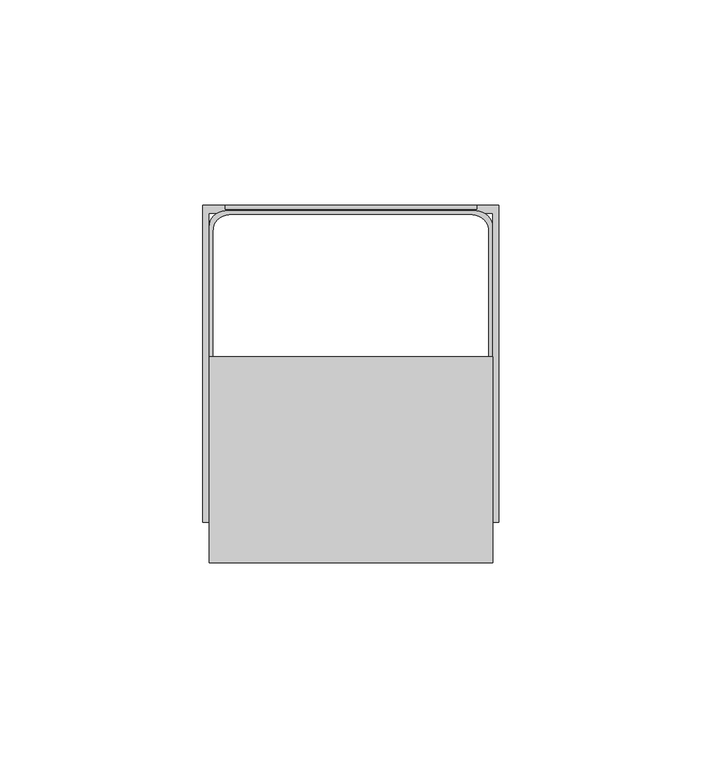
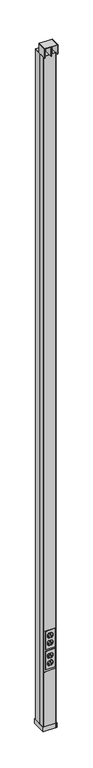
"""IFC4 building model written with IfcOpenShell, lengths in millimetres: proxy geometry, Vertical_Drop_Pole-Wiremold-Tele_Power_Pole-4V : 30TP-412V3S2."""

from ifc_helpers import new_model, si_unit, point, frame, frame_2d, origin, origin_with_axes, place, context, project, spatial, polyline, circle_curve, trimmed, segment, composite_curve, outline, extrude, source, transform, mapped, element, save


def electrical_fixtures_7f5814b6(model_context):
    return source(origin(), model_context, "Body", "SweptSolid", [
        extrude(outline(polyline([(-31.0005859, 79.5967362), (30.9994141, 79.5967362), (30.9994141, 78.5967362), (-31.0005859, 78.5967362), (-31.0005859, 79.5967362)])), frame((0.0, 0.0, 25.4), z_axis=(0.0, 0.0, 1.0), x_axis=(1.0, 0.0, 0.0)), (0.0, 0.0, 1.0), 306.3875),
        extrude(outline(polyline([(30.9994141, 3.0842362), (-31.0005859, 3.0842362), (-31.0005859, 4.0842362), (30.9994141, 4.0842362), (30.9994141, 3.0842362)])), frame((0.0, 0.0, 25.4), z_axis=(0.0, 0.0, 1.0), x_axis=(1.0, 0.0, 0.0)), (0.0, 0.0, 1.0), 306.3875),
        extrude(outline(polyline([(-0.8191406, -9.1282089), (-0.8191406, 41.6717911), (0.9667969, 41.6717911), (0.9667969, -9.1282089), (-0.8191406, -9.1282089)])), frame((0.0, 0.0, 3784.6), z_axis=(0.0, 0.0, 1.0), x_axis=(1.0, 0.0, 0.0)), (0.0, 0.0, 1.0), 50.8),
        extrude(outline(polyline([(-23.8231255, 40.0842911), (23.9707817, 40.0842911), (23.9707817, 38.4967911), (-23.8231255, 38.4967911), (-23.8231255, 40.0842911)])), frame((0.0, 0.0, 3757.6125), z_axis=(0.0, 0.0, 1.0), x_axis=(1.0, 0.0, 0.0)), (0.0, 0.0, 1.0), 26.9875),
        extrude(outline(polyline([(-33.2636719, 41.6717911), (33.4113281, 41.6717911), (33.4113281, 40.0842911), (-33.2636719, 40.0842911), (-33.2636719, 41.6717911)])), frame((0.0, 0.0, 3784.6), z_axis=(0.0, 0.0, 1.0), x_axis=(1.0, 0.0, 0.0)), (0.0, 0.0, 1.0), 50.8),
        extrude(outline(polyline([(-34.8511719, -9.1282089), (-34.8511719, 41.6717911), (-33.2636719, 41.6717911), (-33.2636719, -9.1282089), (-34.8511719, -9.1282089)])), frame((0.0, 0.0, 3784.6), z_axis=(0.0, 0.0, 1.0), x_axis=(1.0, 0.0, 0.0)), (0.0, 0.0, 1.0), 50.8),
        extrude(outline(polyline([(33.4113281, -9.1282089), (33.4113281, 41.6717911), (34.9988281, 41.6717911), (34.9988281, -9.1282089), (33.4113281, -9.1282089)])), frame((0.0, 0.0, 3784.6), z_axis=(0.0, 0.0, 1.0), x_axis=(1.0, 0.0, 0.0)), (0.0, 0.0, 1.0), 50.8),
        extrude(outline(polyline([(-34.8511719, -9.1282089), (-34.8511719, 41.6717911), (34.9988281, 41.6717911), (34.9988281, -9.1282089), (-34.8511719, -9.1282089)])), frame((0.0, 0.0, 3835.4), z_axis=(0.0, 0.0, 1.0), x_axis=(1.0, 0.0, 0.0)), (0.0, 0.0, 1.0), 1.5875),
        extrude(outline(polyline([(560.1033963, 25.4), (560.1033963, -25.4), (458.5033963, -25.4), (458.5033963, 25.4), (560.1033963, 25.4)]), holes=[composite_curve([segment(polyline([(543.1865995, -7.9339585), (543.1865995, 8.0597711)]), True, "CONTINUOUS"), segment(trimmed(circle_curve(frame_2d((531.1153276, 0.9957546)), 13.9862766), [point((543.1865995, 8.0597711))], [point((531.1153276, 14.9820313))], True, "CARTESIAN"), True, "CONTINUOUS"), segment(polyline([(531.1153276, 14.9820313), (529.0278245, 14.9820313)]), True, "CONTINUOUS"), segment(trimmed(circle_curve(frame_2d((529.0278245, 0.9820313)), 14.0), [point((529.0278245, 14.9820313))], [point((517.191287, 8.4584194))], True, "CARTESIAN"), True, "CONTINUOUS"), segment(polyline([(517.191287, 8.4584194), (517.191287, -8.3446349)]), True, "CONTINUOUS"), segment(trimmed(circle_curve(frame_2d((529.1556013, -0.8801276)), 14.1019036), [point((517.191287, -8.3446349))], [point((529.1556013, -14.9820312))], True, "CARTESIAN"), True, "CONTINUOUS"), segment(polyline([(529.1556013, -14.9820312), (531.0731263, -14.9820312)]), True, "CONTINUOUS"), segment(trimmed(circle_curve(frame_2d((531.0731263, -1.0483243)), 13.933707), [point((531.0731263, -14.9820312))], [point((543.1865995, -7.9339585))], True, "CARTESIAN"), True, "CONTINUOUS")], self_intersect=False), composite_curve([segment(polyline([(501.4155057, -8.6075876), (501.4155057, 8.7168414)]), True, "CONTINUOUS"), segment(trimmed(circle_curve(frame_2d((489.7577624, 1.0035576)), 13.9784736), [point((501.4155057, 8.7168414))], [point((489.7577624, 14.9820313))], True, "CARTESIAN"), True, "CONTINUOUS"), segment(polyline([(489.7577624, 14.9820313), (487.6633022, 14.9820313)]), True, "CONTINUOUS"), segment(trimmed(circle_curve(frame_2d((487.6633022, 0.9731741)), 14.0088572), [point((487.6633022, 14.9820313))], [point((475.4201932, 7.7815778))], True, "CARTESIAN"), True, "CONTINUOUS"), segment(polyline([(475.4201932, 7.7815778), (475.4201932, -7.6594621)]), True, "CONTINUOUS"), segment(trimmed(circle_curve(frame_2d((487.7909059, -0.8712357)), 14.1107955), [point((475.4201932, -7.6594621))], [point((487.7909059, -14.9820312))], True, "CARTESIAN"), True, "CONTINUOUS"), segment(polyline([(487.7909059, -14.9820312), (489.7155811, -14.9820312)]), True, "CONTINUOUS"), segment(trimmed(circle_curve(frame_2d((489.7155811, -1.0575402)), 13.9244911), [point((489.7155811, -14.9820312))], [point((501.4155057, -8.6075876))], True, "CARTESIAN"), True, "CONTINUOUS")], self_intersect=False)]), frame((0.0, -0.0907638, 0.0), z_axis=(0.0, 1.0, 0.0), x_axis=(0.0, 0.0, 1.0)), (0.0, 0.0, 1.0), 3.175),
        extrude(outline(polyline([(447.4405057, 25.4), (447.4405057, -25.4), (345.8405057, -25.4), (345.8405057, 25.4), (447.4405057, 25.4)]), holes=[composite_curve([segment(polyline([(430.5237088, -7.9339585), (430.5237088, 8.0597711)]), True, "CONTINUOUS"), segment(trimmed(circle_curve(frame_2d((418.4524369, 0.9957546)), 13.9862766), [point((430.5237088, 8.0597711))], [point((418.4524369, 14.9820313))], True, "CARTESIAN"), True, "CONTINUOUS"), segment(polyline([(418.4524369, 14.9820313), (416.3649338, 14.9820313)]), True, "CONTINUOUS"), segment(trimmed(circle_curve(frame_2d((416.3649338, 0.9820313)), 14.0), [point((416.3649338, 14.9820313))], [point((404.5283963, 8.4584194))], True, "CARTESIAN"), True, "CONTINUOUS"), segment(polyline([(404.5283963, 8.4584194), (404.5283963, -8.3446349)]), True, "CONTINUOUS"), segment(trimmed(circle_curve(frame_2d((416.4927107, -0.8801276)), 14.1019036), [point((404.5283963, -8.3446349))], [point((416.4927107, -14.9820312))], True, "CARTESIAN"), True, "CONTINUOUS"), segment(polyline([(416.4927107, -14.9820312), (418.4102357, -14.9820312)]), True, "CONTINUOUS"), segment(trimmed(circle_curve(frame_2d((418.4102357, -1.0483243)), 13.933707), [point((418.4102357, -14.9820312))], [point((430.5237088, -7.9339585))], True, "CARTESIAN"), True, "CONTINUOUS")], self_intersect=False), composite_curve([segment(polyline([(388.7526151, -8.6075876), (388.7526151, 8.7168414)]), True, "CONTINUOUS"), segment(trimmed(circle_curve(frame_2d((377.0948718, 1.0035576)), 13.9784736), [point((388.7526151, 8.7168414))], [point((377.0948718, 14.9820313))], True, "CARTESIAN"), True, "CONTINUOUS"), segment(polyline([(377.0948718, 14.9820313), (375.0004116, 14.9820313)]), True, "CONTINUOUS"), segment(trimmed(circle_curve(frame_2d((375.0004116, 0.9731741)), 14.0088572), [point((375.0004116, 14.9820313))], [point((362.7573026, 7.7815778))], True, "CARTESIAN"), True, "CONTINUOUS"), segment(polyline([(362.7573026, 7.7815778), (362.7573026, -7.6594621)]), True, "CONTINUOUS"), segment(trimmed(circle_curve(frame_2d((375.1280153, -0.8712357)), 14.1107955), [point((362.7573026, -7.6594621))], [point((375.1280153, -14.9820312))], True, "CARTESIAN"), True, "CONTINUOUS"), segment(polyline([(375.1280153, -14.9820312), (377.0526905, -14.9820312)]), True, "CONTINUOUS"), segment(trimmed(circle_curve(frame_2d((377.0526905, -1.0575402)), 13.9244911), [point((377.0526905, -14.9820312))], [point((388.7526151, -8.6075876))], True, "CARTESIAN"), True, "CONTINUOUS")], self_intersect=False)]), frame((0.0, -0.0907638, 0.0), z_axis=(0.0, 1.0, 0.0), x_axis=(0.0, 0.0, 1.0)), (0.0, 0.0, 1.0), 3.175),
        extrude(outline(composite_curve([segment(trimmed(circle_curve(frame_2d((530.9960144, -1.041191)), 13.931831), [point((543.1368495, -7.874641))], [point((530.9960144, -14.973022))], False, "CARTESIAN"), True, "CONTINUOUS"), segment(polyline([(530.9960144, -14.973022), (529.0793217, -14.973022)]), True, "CONTINUOUS"), segment(trimmed(circle_curve(frame_2d((529.0793217, -0.8694684)), 14.1035536), [point((529.0793217, -14.973022))], [point((517.1416776, -8.3796533))], False, "CARTESIAN"), True, "CONTINUOUS"), segment(polyline([(517.1416776, -8.3796533), (517.1416776, 8.5109299)]), True, "CONTINUOUS"), segment(trimmed(circle_curve(frame_2d((528.9515186, 0.9894138)), 14.0016266), [point((517.1416776, 8.5109299))], [point((528.9515186, 14.9910405))], False, "CARTESIAN"), True, "CONTINUOUS"), segment(polyline([(528.9515186, 14.9910405), (531.0381621, 14.9910405)]), True, "CONTINUOUS"), segment(trimmed(circle_curve(frame_2d((531.0381621, 1.0065929)), 13.9844475), [point((531.0381621, 14.9910405))], [point((543.1368495, 8.0199042))], False, "CARTESIAN"), True, "CONTINUOUS"), segment(polyline([(543.1368495, 8.0199042), (543.1368495, -7.874641)]), True, "CONTINUOUS")], self_intersect=False), holes=[polyline([(529.2416776, -5.4909908), (521.3416776, -5.4909908), (521.3416776, -7.0909908), (529.2416776, -7.0909908), (529.2416776, -5.4909908)]), polyline([(522.1416776, 5.5090092), (528.4416776, 5.5090092), (528.4416776, 7.1090092), (522.1416776, 7.1090092), (522.1416776, 5.5090092)]), composite_curve([segment(polyline([(539.7368495, 2.4), (536.536709, 2.4)]), True, "CONTINUOUS"), segment(trimmed(circle_curve(frame_2d((536.536709, 0.0)), 2.4), [point((536.536709, 2.4))], [point((536.536709, -2.4))], True, "CARTESIAN"), True, "CONTINUOUS"), segment(polyline([(536.536709, -2.4), (539.7368495, -2.4), (539.7368495, 2.4)]), True, "CONTINUOUS")], self_intersect=False)]), frame((0.0, 1.3967362, 0.0), z_axis=(0.0, 1.0, 0.0), x_axis=(0.0, 0.0, 1.0)), (0.0, 0.0, 1.0), 19.89375),
        extrude(outline(composite_curve([segment(polyline([(501.3658963, 8.6933005), (501.3658963, -8.5651486)]), True, "CONTINUOUS"), segment(trimmed(circle_curve(frame_2d((489.6417726, -1.0436022)), 13.9294199), [point((501.3658963, -8.5651486))], [point((489.6417726, -14.973022))], False, "CARTESIAN"), True, "CONTINUOUS"), segment(polyline([(489.6417726, -14.973022), (487.7134744, -14.973022)]), True, "CONTINUOUS"), segment(trimmed(circle_curve(frame_2d((487.7134744, -0.8665933)), 14.1064287), [point((487.7134744, -14.973022))], [point((475.3707244, -7.6965167))], False, "CARTESIAN"), True, "CONTINUOUS"), segment(polyline([(475.3707244, -7.6965167), (475.3707244, 7.8360196)]), True, "CONTINUOUS"), segment(trimmed(circle_curve(frame_2d((487.5859315, 0.9864964)), 14.004544), [point((475.3707244, 7.8360196))], [point((487.5859315, 14.9910405))], False, "CARTESIAN"), True, "CONTINUOUS"), segment(polyline([(487.5859315, 14.9910405), (489.6840838, 14.9910405)]), True, "CONTINUOUS"), segment(trimmed(circle_curve(frame_2d((489.6840838, 1.0077484)), 13.983292), [point((489.6840838, 14.9910405))], [point((501.3658963, 8.6933005))], False, "CARTESIAN"), True, "CONTINUOUS")], self_intersect=False), holes=[polyline([(487.4707244, -5.4909908), (479.5707244, -5.4909908), (479.5707244, -7.0909908), (487.4707244, -7.0909908), (487.4707244, -5.4909908)]), polyline([(480.3707244, 5.5090092), (486.6707244, 5.5090092), (486.6707244, 7.1090092), (480.3707244, 7.1090092), (480.3707244, 5.5090092)]), composite_curve([segment(polyline([(497.9657558, 2.4), (494.7657558, 2.4)]), True, "CONTINUOUS"), segment(trimmed(circle_curve(frame_2d((494.7657558, 0.0)), 2.4), [point((494.7657558, 2.4))], [point((494.7657558, -2.4))], True, "CARTESIAN"), True, "CONTINUOUS"), segment(polyline([(494.7657558, -2.4), (497.9657558, -2.4), (497.9657558, 2.4)]), True, "CONTINUOUS")], self_intersect=False)]), frame((0.0, 1.3967362, 0.0), z_axis=(0.0, 1.0, 0.0), x_axis=(0.0, 0.0, 1.0)), (0.0, 0.0, 1.0), 19.89375),
        extrude(outline(composite_curve([segment(trimmed(circle_curve(frame_2d((418.3827332, -1.041191)), 13.931831), [point((430.5235683, -7.874641))], [point((418.3827332, -14.973022))], False, "CARTESIAN"), True, "CONTINUOUS"), segment(polyline([(418.3827332, -14.973022), (416.4660405, -14.973022)]), True, "CONTINUOUS"), segment(trimmed(circle_curve(frame_2d((416.4660405, -0.8694684)), 14.1035536), [point((416.4660405, -14.973022))], [point((404.5283963, -8.3796533))], False, "CARTESIAN"), True, "CONTINUOUS"), segment(polyline([(404.5283963, -8.3796533), (404.5283963, 8.5109299)]), True, "CONTINUOUS"), segment(trimmed(circle_curve(frame_2d((416.3382373, 0.9894138)), 14.0016266), [point((404.5283963, 8.5109299))], [point((416.3382373, 14.9910405))], False, "CARTESIAN"), True, "CONTINUOUS"), segment(polyline([(416.3382373, 14.9910405), (418.4248808, 14.9910405)]), True, "CONTINUOUS"), segment(trimmed(circle_curve(frame_2d((418.4248808, 1.0065929)), 13.9844475), [point((418.4248808, 14.9910405))], [point((430.5235683, 8.0199042))], False, "CARTESIAN"), True, "CONTINUOUS"), segment(polyline([(430.5235683, 8.0199042), (430.5235683, -7.874641)]), True, "CONTINUOUS")], self_intersect=False), holes=[polyline([(416.6283963, -5.4909908), (408.7283963, -5.4909908), (408.7283963, -7.0909908), (416.6283963, -7.0909908), (416.6283963, -5.4909908)]), polyline([(409.5283963, 5.5090092), (415.8283963, 5.5090092), (415.8283963, 7.1090092), (409.5283963, 7.1090092), (409.5283963, 5.5090092)]), composite_curve([segment(polyline([(427.1235683, 2.4), (423.9234278, 2.4)]), True, "CONTINUOUS"), segment(trimmed(circle_curve(frame_2d((423.9234278, 0.0)), 2.4), [point((423.9234278, 2.4))], [point((423.9234278, -2.4))], True, "CARTESIAN"), True, "CONTINUOUS"), segment(polyline([(423.9234278, -2.4), (427.1235683, -2.4), (427.1235683, 2.4)]), True, "CONTINUOUS")], self_intersect=False)]), frame((0.0, 1.3967362, 0.0), z_axis=(0.0, 1.0, 0.0), x_axis=(0.0, 0.0, 1.0)), (0.0, 0.0, 1.0), 19.89375),
        extrude(outline(composite_curve([segment(polyline([(388.7526151, 8.6933005), (388.7526151, -8.5651486)]), True, "CONTINUOUS"), segment(trimmed(circle_curve(frame_2d((377.0284914, -1.0436022)), 13.9294199), [point((388.7526151, -8.5651486))], [point((377.0284914, -14.973022))], False, "CARTESIAN"), True, "CONTINUOUS"), segment(polyline([(377.0284914, -14.973022), (375.1001931, -14.973022)]), True, "CONTINUOUS"), segment(trimmed(circle_curve(frame_2d((375.1001931, -0.8665933)), 14.1064287), [point((375.1001931, -14.973022))], [point((362.7574431, -7.6965167))], False, "CARTESIAN"), True, "CONTINUOUS"), segment(polyline([(362.7574431, -7.6965167), (362.7574431, 7.8360196)]), True, "CONTINUOUS"), segment(trimmed(circle_curve(frame_2d((374.9726503, 0.9864964)), 14.004544), [point((362.7574431, 7.8360196))], [point((374.9726503, 14.9910405))], False, "CARTESIAN"), True, "CONTINUOUS"), segment(polyline([(374.9726503, 14.9910405), (377.0708025, 14.9910405)]), True, "CONTINUOUS"), segment(trimmed(circle_curve(frame_2d((377.0708025, 1.0077484)), 13.983292), [point((377.0708025, 14.9910405))], [point((388.7526151, 8.6933005))], False, "CARTESIAN"), True, "CONTINUOUS")], self_intersect=False), holes=[polyline([(374.8574431, -5.4909908), (366.9574431, -5.4909908), (366.9574431, -7.0909908), (374.8574431, -7.0909908), (374.8574431, -5.4909908)]), polyline([(367.7574431, 5.5090092), (374.0574431, 5.5090092), (374.0574431, 7.1090092), (367.7574431, 7.1090092), (367.7574431, 5.5090092)]), composite_curve([segment(polyline([(385.3524745, 2.4), (382.1524745, 2.4)]), True, "CONTINUOUS"), segment(trimmed(circle_curve(frame_2d((382.1524745, 0.0)), 2.4), [point((382.1524745, 2.4))], [point((382.1524745, -2.4))], True, "CARTESIAN"), True, "CONTINUOUS"), segment(polyline([(382.1524745, -2.4), (385.3524745, -2.4), (385.3524745, 2.4)]), True, "CONTINUOUS")], self_intersect=False)]), frame((0.0, 1.3967362, 0.0), z_axis=(0.0, 1.0, 0.0), x_axis=(0.0, 0.0, 1.0)), (0.0, 0.0, 1.0), 19.89375),
        extrude(outline(polyline([(-36.5125, 1.4967362), (-36.5125, 79.5967362), (36.5125, 79.5967362), (36.5125, 1.4967362), (-36.5125, 1.4967362)]), holes=[polyline([(34.925, 77.5967362), (-34.925, 77.5967362), (-34.925, 3.0842362), (34.925, 3.0842362), (34.925, 77.5967362)])]), origin_with_axes(), (0.0, 0.0, 1.0), 25.4),
        extrude(outline(composite_curve([segment(polyline([(-34.925, 39.4967362), (-34.925, 73.5967362)]), True, "CONTINUOUS"), segment(trimmed(circle_curve(frame_2d((-30.925, 73.5967362)), 4.0), [point((-34.925, 73.5967362))], [point((-30.925, 77.5967362))], False, "CARTESIAN"), True, "CONTINUOUS"), segment(polyline([(-30.925, 77.5967362), (30.925, 77.5967362)]), True, "CONTINUOUS"), segment(trimmed(circle_curve(frame_2d((30.925, 73.5967362)), 4.0), [point((30.925, 77.5967362))], [point((34.925, 73.5967362))], False, "CARTESIAN"), True, "CONTINUOUS"), segment(polyline([(34.925, 73.5967362), (34.925, 39.4967362), (-34.925, 39.4967362)]), True, "CONTINUOUS")], self_intersect=False), holes=[composite_curve([segment(trimmed(circle_curve(frame_2d((29.925, 72.5967362)), 4.0), [point((33.925, 72.5967362))], [point((29.925, 76.5967362))], True, "CARTESIAN"), True, "CONTINUOUS"), segment(polyline([(29.925, 76.5967362), (-29.925, 76.5967362)]), True, "CONTINUOUS"), segment(trimmed(circle_curve(frame_2d((-29.925, 72.5967362)), 4.0), [point((-29.925, 76.5967362))], [point((-33.925, 72.5967362))], True, "CARTESIAN"), True, "CONTINUOUS"), segment(polyline([(-33.925, 72.5967362), (-33.925, 40.4967362), (33.925, 40.4967362), (33.925, 72.5967362)]), True, "CONTINUOUS")], self_intersect=False)]), origin_with_axes(), (0.0, 0.0, 1.0), 3784.6),
        extrude(outline(composite_curve([segment(polyline([(34.925, 39.4967362), (34.925, 7.0842362)]), True, "CONTINUOUS"), segment(trimmed(circle_curve(frame_2d((30.925, 7.0842362)), 4.0), [point((34.925, 7.0842362))], [point((30.925, 3.0842362))], False, "CARTESIAN"), True, "CONTINUOUS"), segment(polyline([(30.925, 3.0842362), (-30.925, 3.0842362)]), True, "CONTINUOUS"), segment(trimmed(circle_curve(frame_2d((-30.925, 7.0842362)), 4.0), [point((-30.925, 3.0842362))], [point((-34.925, 7.0842362))], False, "CARTESIAN"), True, "CONTINUOUS"), segment(polyline([(-34.925, 7.0842362), (-34.925, 39.4967362), (34.925, 39.4967362)]), True, "CONTINUOUS")], self_intersect=False), holes=[composite_curve([segment(trimmed(circle_curve(frame_2d((-29.925, 8.0842362)), 4.0), [point((-33.925, 8.0842362))], [point((-29.925, 4.0842362))], True, "CARTESIAN"), True, "CONTINUOUS"), segment(polyline([(-29.925, 4.0842362), (29.925, 4.0842362)]), True, "CONTINUOUS"), segment(trimmed(circle_curve(frame_2d((29.925, 8.0842362)), 4.0), [point((29.925, 4.0842362))], [point((33.925, 8.0842362))], True, "CARTESIAN"), True, "CONTINUOUS"), segment(polyline([(33.925, 8.0842362), (33.925, 38.4967362), (-33.925, 38.4967362), (-33.925, 8.0842362)]), True, "CONTINUOUS")], self_intersect=False)]), origin_with_axes(), (0.0, 0.0, 1.0), 3784.6),
    ])


if __name__ == "__main__":
    model = new_model("IFC4")
    model_context = context("Model", 3, world=origin())
    ifc_project = project(units=[si_unit("LENGTHUNIT", "METRE", prefix="MILLI")], contexts=[model_context])
    site = spatial("IfcSite", under=ifc_project)
    building = spatial("IfcBuilding", under=site)
    placement = place(None, origin())
    electrical_fixtures_shape = electrical_fixtures_7f5814b6(model_context)
    element("IfcBuildingElementProxy", 1, Name="Vertical_Drop_Pole-Wiremold-Tele_Power_Pole-4V : 30TP-412V3S2", ObjectType="Vertical_Drop_Pole-Wiremold-Tele_Power_Pole-4V : 30TP-412V3S2", at=placement, inside=building, context=model_context, shape_type="MappedRepresentation", body=[
        mapped(electrical_fixtures_shape, transform((0.0, 0.0, 0.0), x_axis=(1.0, 0.0, 0.0), y_axis=(0.0, 1.0, 0.0), z_axis=(0.0, 0.0, 1.0))),
    ])
    save(model, "model.ifc")
